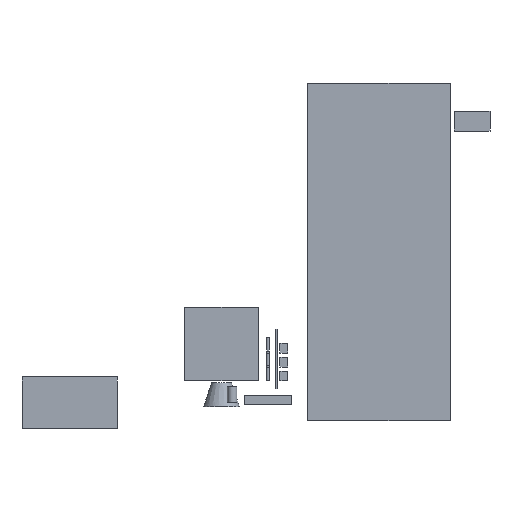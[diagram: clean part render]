
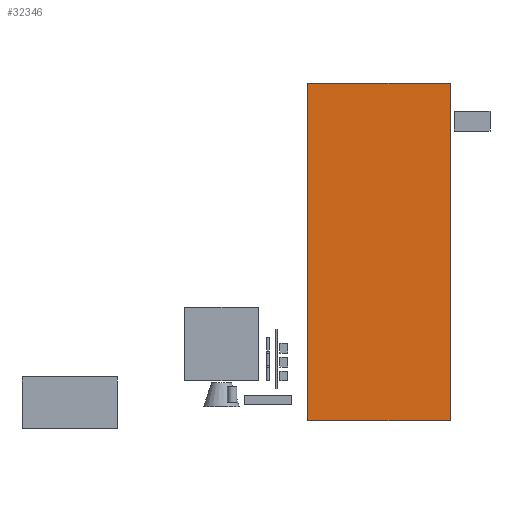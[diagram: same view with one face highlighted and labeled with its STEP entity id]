
A CAD part, front view. The second image highlights one B-rep face of the part: STEP entity #32346.
In plain terms, the highlighted planar face has unit normal (0, -1, 0).
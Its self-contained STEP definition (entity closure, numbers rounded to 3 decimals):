
#32130 = EDGE_CURVE('',#32131,#32133,#32135,.T.);
#32131 = VERTEX_POINT('',#32132);
#32132 = CARTESIAN_POINT('',(-180.,-36.,-80.));
#32133 = VERTEX_POINT('',#32134);
#32134 = CARTESIAN_POINT('',(-180.,-36.,770.));
#32135 = SURFACE_CURVE('',#32136,(#32140,#32152),.PCURVE_S1.);
#32136 = LINE('',#32137,#32138);
#32137 = CARTESIAN_POINT('',(-180.,-36.,-80.));
#32138 = VECTOR('',#32139,1.);
#32139 = DIRECTION('',(0.,0.,1.));
#32140 = PCURVE('',#32141,#32146);
#32141 = PLANE('',#32142);
#32142 = AXIS2_PLACEMENT_3D('',#32143,#32144,#32145);
#32143 = CARTESIAN_POINT('',(-180.,-36.,-80.));
#32144 = DIRECTION('',(1.,0.,0.));
#32145 = DIRECTION('',(0.,0.,1.));
#32146 = DEFINITIONAL_REPRESENTATION('',(#32147),#32151);
#32147 = LINE('',#32148,#32149);
#32148 = CARTESIAN_POINT('',(0.,0.));
#32149 = VECTOR('',#32150,1.);
#32150 = DIRECTION('',(1.,0.));
#32151 = ( GEOMETRIC_REPRESENTATION_CONTEXT(2) 
PARAMETRIC_REPRESENTATION_CONTEXT() REPRESENTATION_CONTEXT('2D SPACE',''
  ) );
#32152 = PCURVE('',#32153,#32158);
#32153 = PLANE('',#32154);
#32154 = AXIS2_PLACEMENT_3D('',#32155,#32156,#32157);
#32155 = CARTESIAN_POINT('',(-180.,-36.,-80.));
#32156 = DIRECTION('',(0.,1.,0.));
#32157 = DIRECTION('',(0.,0.,1.));
#32158 = DEFINITIONAL_REPRESENTATION('',(#32159),#32163);
#32159 = LINE('',#32160,#32161);
#32160 = CARTESIAN_POINT('',(0.,0.));
#32161 = VECTOR('',#32162,1.);
#32162 = DIRECTION('',(1.,0.));
#32163 = ( GEOMETRIC_REPRESENTATION_CONTEXT(2) 
PARAMETRIC_REPRESENTATION_CONTEXT() REPRESENTATION_CONTEXT('2D SPACE',''
  ) );
#32181 = PLANE('',#32182);
#32182 = AXIS2_PLACEMENT_3D('',#32183,#32184,#32185);
#32183 = CARTESIAN_POINT('',(-180.,-36.,-80.));
#32184 = DIRECTION('',(0.,0.,1.));
#32185 = DIRECTION('',(1.,0.,0.));
#32235 = PLANE('',#32236);
#32236 = AXIS2_PLACEMENT_3D('',#32237,#32238,#32239);
#32237 = CARTESIAN_POINT('',(-180.,-36.,770.));
#32238 = DIRECTION('',(0.,0.,1.));
#32239 = DIRECTION('',(1.,0.,0.));
#32250 = EDGE_CURVE('',#32251,#32253,#32255,.T.);
#32251 = VERTEX_POINT('',#32252);
#32252 = CARTESIAN_POINT('',(180.,-36.,-80.));
#32253 = VERTEX_POINT('',#32254);
#32254 = CARTESIAN_POINT('',(180.,-36.,770.));
#32255 = SURFACE_CURVE('',#32256,(#32260,#32272),.PCURVE_S1.);
#32256 = LINE('',#32257,#32258);
#32257 = CARTESIAN_POINT('',(180.,-36.,-80.));
#32258 = VECTOR('',#32259,1.);
#32259 = DIRECTION('',(0.,0.,1.));
#32260 = PCURVE('',#32261,#32266);
#32261 = PLANE('',#32262);
#32262 = AXIS2_PLACEMENT_3D('',#32263,#32264,#32265);
#32263 = CARTESIAN_POINT('',(180.,-36.,-80.));
#32264 = DIRECTION('',(1.,0.,0.));
#32265 = DIRECTION('',(0.,0.,1.));
#32266 = DEFINITIONAL_REPRESENTATION('',(#32267),#32271);
#32267 = LINE('',#32268,#32269);
#32268 = CARTESIAN_POINT('',(0.,0.));
#32269 = VECTOR('',#32270,1.);
#32270 = DIRECTION('',(1.,0.));
#32271 = ( GEOMETRIC_REPRESENTATION_CONTEXT(2) 
PARAMETRIC_REPRESENTATION_CONTEXT() REPRESENTATION_CONTEXT('2D SPACE',''
  ) );
#32272 = PCURVE('',#32153,#32273);
#32273 = DEFINITIONAL_REPRESENTATION('',(#32274),#32278);
#32274 = LINE('',#32275,#32276);
#32275 = CARTESIAN_POINT('',(0.,360.));
#32276 = VECTOR('',#32277,1.);
#32277 = DIRECTION('',(1.,0.));
#32278 = ( GEOMETRIC_REPRESENTATION_CONTEXT(2) 
PARAMETRIC_REPRESENTATION_CONTEXT() REPRESENTATION_CONTEXT('2D SPACE',''
  ) );
#32346 = ADVANCED_FACE('',(#32347),#32153,.F.);
#32347 = FACE_BOUND('',#32348,.F.);
#32348 = EDGE_LOOP('',(#32349,#32370,#32371,#32392));
#32349 = ORIENTED_EDGE('',*,*,#32350,.F.);
#32350 = EDGE_CURVE('',#32131,#32251,#32351,.T.);
#32351 = SURFACE_CURVE('',#32352,(#32356,#32363),.PCURVE_S1.);
#32352 = LINE('',#32353,#32354);
#32353 = CARTESIAN_POINT('',(-180.,-36.,-80.));
#32354 = VECTOR('',#32355,1.);
#32355 = DIRECTION('',(1.,0.,0.));
#32356 = PCURVE('',#32153,#32357);
#32357 = DEFINITIONAL_REPRESENTATION('',(#32358),#32362);
#32358 = LINE('',#32359,#32360);
#32359 = CARTESIAN_POINT('',(0.,0.));
#32360 = VECTOR('',#32361,1.);
#32361 = DIRECTION('',(0.,1.));
#32362 = ( GEOMETRIC_REPRESENTATION_CONTEXT(2) 
PARAMETRIC_REPRESENTATION_CONTEXT() REPRESENTATION_CONTEXT('2D SPACE',''
  ) );
#32363 = PCURVE('',#32181,#32364);
#32364 = DEFINITIONAL_REPRESENTATION('',(#32365),#32369);
#32365 = LINE('',#32366,#32367);
#32366 = CARTESIAN_POINT('',(0.,0.));
#32367 = VECTOR('',#32368,1.);
#32368 = DIRECTION('',(1.,0.));
#32369 = ( GEOMETRIC_REPRESENTATION_CONTEXT(2) 
PARAMETRIC_REPRESENTATION_CONTEXT() REPRESENTATION_CONTEXT('2D SPACE',''
  ) );
#32370 = ORIENTED_EDGE('',*,*,#32130,.T.);
#32371 = ORIENTED_EDGE('',*,*,#32372,.T.);
#32372 = EDGE_CURVE('',#32133,#32253,#32373,.T.);
#32373 = SURFACE_CURVE('',#32374,(#32378,#32385),.PCURVE_S1.);
#32374 = LINE('',#32375,#32376);
#32375 = CARTESIAN_POINT('',(-180.,-36.,770.));
#32376 = VECTOR('',#32377,1.);
#32377 = DIRECTION('',(1.,0.,0.));
#32378 = PCURVE('',#32153,#32379);
#32379 = DEFINITIONAL_REPRESENTATION('',(#32380),#32384);
#32380 = LINE('',#32381,#32382);
#32381 = CARTESIAN_POINT('',(850.,0.));
#32382 = VECTOR('',#32383,1.);
#32383 = DIRECTION('',(0.,1.));
#32384 = ( GEOMETRIC_REPRESENTATION_CONTEXT(2) 
PARAMETRIC_REPRESENTATION_CONTEXT() REPRESENTATION_CONTEXT('2D SPACE',''
  ) );
#32385 = PCURVE('',#32235,#32386);
#32386 = DEFINITIONAL_REPRESENTATION('',(#32387),#32391);
#32387 = LINE('',#32388,#32389);
#32388 = CARTESIAN_POINT('',(0.,0.));
#32389 = VECTOR('',#32390,1.);
#32390 = DIRECTION('',(1.,0.));
#32391 = ( GEOMETRIC_REPRESENTATION_CONTEXT(2) 
PARAMETRIC_REPRESENTATION_CONTEXT() REPRESENTATION_CONTEXT('2D SPACE',''
  ) );
#32392 = ORIENTED_EDGE('',*,*,#32250,.F.);
